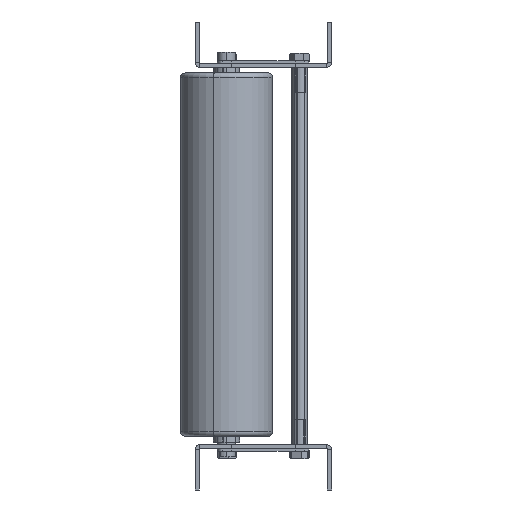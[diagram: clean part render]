
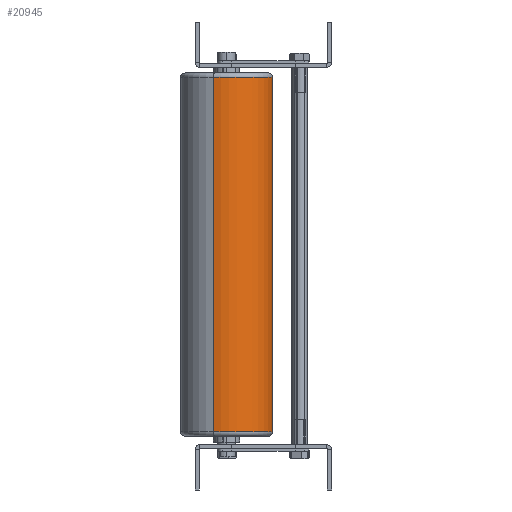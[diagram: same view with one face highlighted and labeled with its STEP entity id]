
A CAD part, left-side view. The second image highlights one B-rep face of the part: STEP entity #20945.
In plain terms, the highlighted cylindrical face has radius 50.8 mm (diameter 101.6 mm), a partial arc.
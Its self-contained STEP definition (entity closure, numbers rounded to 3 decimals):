
#74 = CARTESIAN_POINT ( 'NONE',  ( -699.458, -759.218, -133.405 ) ) ;
#521 = LINE ( 'NONE', #17794, #4234 ) ;
#790 = CIRCLE ( 'NONE', #27654, 50.8 ) ;
#1988 = EDGE_CURVE ( 'NONE', #11997, #27425, #790, .T. ) ;
#2156 = EDGE_LOOP ( 'NONE', ( #23274, #28069, #12519, #27696 ) ) ;
#4234 = VECTOR ( 'NONE', #18223, 1000. ) ;
#4690 = DIRECTION ( 'NONE',  ( 0., 0., 1. ) ) ;
#4746 = CIRCLE ( 'NONE', #20980, 50.8 ) ;
#5791 = CARTESIAN_POINT ( 'NONE',  ( -699.458, -759.218, -3172.336 ) ) ;
#6747 = CARTESIAN_POINT ( 'NONE',  ( -650.805, -773.831, -133.405 ) ) ;
#8014 = CARTESIAN_POINT ( 'NONE',  ( -650.805, -773.831, -3172.336 ) ) ;
#9548 = DIRECTION ( 'NONE',  ( -0.958, 0.288, 0. ) ) ;
#10475 = DIRECTION ( 'NONE',  ( 0., 0., -1. ) ) ;
#11226 = CARTESIAN_POINT ( 'NONE',  ( -602.153, -788.445, -133.405 ) ) ;
#11997 = VERTEX_POINT ( 'NONE', #14967 ) ;
#12519 = ORIENTED_EDGE ( 'NONE', *, *, #13841, .T. ) ;
#13814 = CARTESIAN_POINT ( 'NONE',  ( -699.458, -759.218, 256.595 ) ) ;
#13841 = EDGE_CURVE ( 'NONE', #27425, #16315, #27384, .T. ) ;
#14967 = CARTESIAN_POINT ( 'NONE',  ( -602.153, -788.445, 256.595 ) ) ;
#16315 = VERTEX_POINT ( 'NONE', #74 ) ;
#17061 = VECTOR ( 'NONE', #27242, 1000. ) ;
#17154 = CYLINDRICAL_SURFACE ( 'NONE', #18702, 50.8 ) ;
#17794 = CARTESIAN_POINT ( 'NONE',  ( -602.153, -788.445, -3172.336 ) ) ;
#18190 = DIRECTION ( 'NONE',  ( 0.958, -0.288, 0. ) ) ;
#18223 = DIRECTION ( 'NONE',  ( 0., 0., -1. ) ) ;
#18405 = DIRECTION ( 'NONE',  ( 0., 0., -1. ) ) ;
#18702 = AXIS2_PLACEMENT_3D ( 'NONE', #8014, #10475, #19614 ) ;
#19614 = DIRECTION ( 'NONE',  ( -0.958, 0.288, 0. ) ) ;
#20945 = ADVANCED_FACE ( 'NONE', ( #23811 ), #17154, .T. ) ;
#20980 = AXIS2_PLACEMENT_3D ( 'NONE', #6747, #4690, #18190 ) ;
#23274 = ORIENTED_EDGE ( 'NONE', *, *, #25907, .F. ) ;
#23811 = FACE_OUTER_BOUND ( 'NONE', #2156, .T. ) ;
#25907 = EDGE_CURVE ( 'NONE', #11997, #27410, #521, .T. ) ;
#27242 = DIRECTION ( 'NONE',  ( 0., 0., -1. ) ) ;
#27384 = LINE ( 'NONE', #5791, #17061 ) ;
#27410 = VERTEX_POINT ( 'NONE', #11226 ) ;
#27425 = VERTEX_POINT ( 'NONE', #13814 ) ;
#27431 = EDGE_CURVE ( 'NONE', #16315, #27410, #4746, .T. ) ;
#27535 = CARTESIAN_POINT ( 'NONE',  ( -650.805, -773.831, 256.595 ) ) ;
#27654 = AXIS2_PLACEMENT_3D ( 'NONE', #27535, #18405, #9548 ) ;
#27696 = ORIENTED_EDGE ( 'NONE', *, *, #27431, .T. ) ;
#28069 = ORIENTED_EDGE ( 'NONE', *, *, #1988, .T. ) ;
